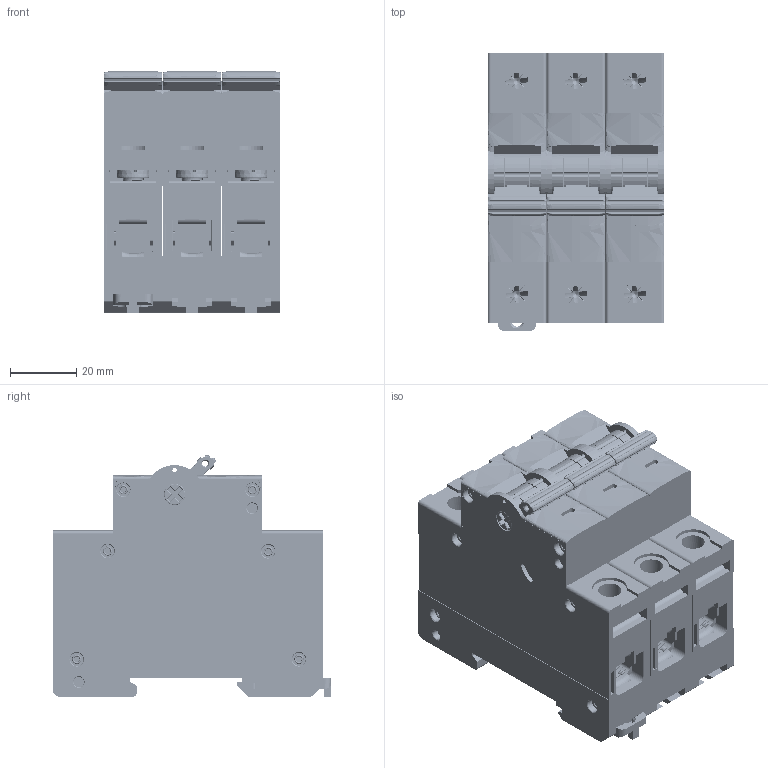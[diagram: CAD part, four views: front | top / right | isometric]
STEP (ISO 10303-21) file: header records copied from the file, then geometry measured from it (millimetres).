
FILE_DESCRIPTION (( 'STEP AP214' ), '1' );
FILE_NAME ('3P.STEP', '2026-07-03T12:18:24', ( '' ), ( '' ), 'SwSTEP 2.0', 'SolidWorks 2022', '' );
FILE_SCHEMA (( 'AUTOMOTIVE_DESIGN' ));
Length unit declared in the file: millimetre
Products named in the file (3): swn 1p; 3P; swn 1p без
Assembly tree (3 placements, depth 2):
  3P
    swn 1p
    swn 1p без  x2
Bounding box: 53.4 x 84 x 72.9 mm (x, y, z)
Volume: 222107.3 mm3; surface area: 105341.4 mm2
Topology: 3 solids, 133 shells, 8885 faces, 24404 edges, 16014 vertices
Faces by surface type: plane 5456, bspline 1662, cylinder 1238, torus 288, cone 193, sphere 48
Entity records: 296542 total; most frequent: CARTESIAN_POINT 88749, ORIENTED_EDGE 32702, DIRECTION 25564, EDGE_CURVE 16351, VECTOR 11022, LINE 11022, VERTEX_POINT 10742, AXIS2_PLACEMENT_3D 7271
